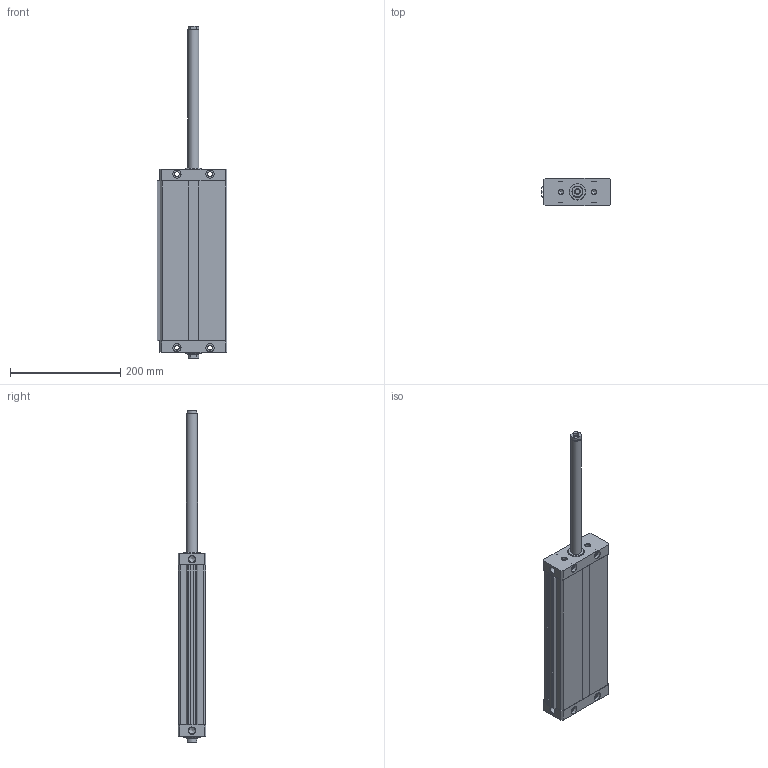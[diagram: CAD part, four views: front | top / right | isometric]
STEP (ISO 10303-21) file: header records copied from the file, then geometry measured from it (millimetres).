
FILE_DESCRIPTION((''),'2;1');
FILE_NAME('I:\Area Tecnica\Disegni\VARIE-3D\Componenti\1370 - CPO\1370_##_0000_03\1370_63_0250_03-01.iam.step','2010-12-16T11:01:52',(''),(''),'Autodesk Inventor 2011','Autodesk Inventor 2011','');
FILE_SCHEMA(('AUTOMOTIVE_DESIGN { 1 0 10303 214 1 1 1 1 }'));
Length unit declared in the file: millimetre
Products named in the file (5): 1370_63_0250_03-01; 1370_05_63_0000; 1370_06_63_0250; 1370_08_63_0000; 1370_3_63_0250
Assembly tree (4 placements, depth 2):
  1370_63_0250_03-01
    1370_05_63_0000
    1370_06_63_0250
    1370_08_63_0000
    1370_3_63_0250
Bounding box: 126.75 x 50 x 602 mm (x, y, z)
Volume: 1298259.7 mm3; surface area: 289699.5 mm2
Topology: 4 solids, 4 shells, 164 faces, 398 edges, 252 vertices
Faces by surface type: plane 94, cylinder 50, cone 20
Full cylindrical faces by diameter (mm): 8.5 x20, 10.3 x2, 11.75 x2, 15 x8, 20 x4, 30 x2
Entity records: 4722 total; most frequent: DIRECTION 794, CARTESIAN_POINT 737, ORIENTED_EDGE 652, EDGE_CURVE 326, AXIS2_PLACEMENT_3D 295, EDGE_LOOP 254, VERTEX_POINT 238, VECTOR 204
